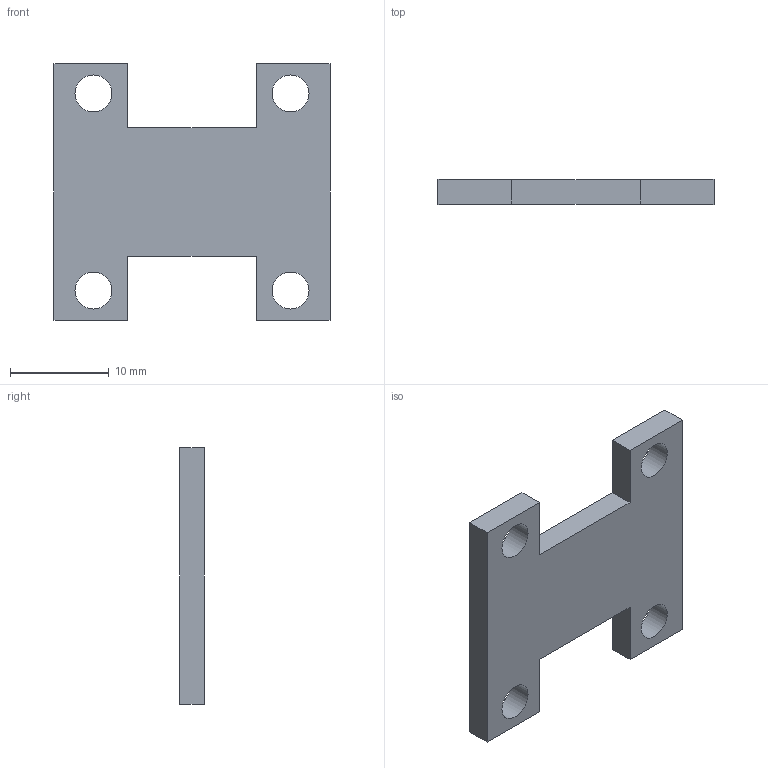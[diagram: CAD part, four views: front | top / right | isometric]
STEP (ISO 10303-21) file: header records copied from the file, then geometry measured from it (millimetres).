
FILE_DESCRIPTION(/* description */ (''),/* implementation_level */ '2;1');
FILE_NAME(/* name */ 'Basket_Plexiglass_V5.stp',/* time_stamp */ '2026-03-25T11:31:58-04:00',/* author */ ('vckot'),/* organization */ (''),/* preprocessor_version */ 'ST-DEVELOPER v20.1',/* originating_system */ 'Autodesk Inventor 2026',/* authorisation */ '');
FILE_SCHEMA (('AUTOMOTIVE_DESIGN { 1 0 10303 214 3 1 1 }'));
Length unit declared in the file: millimetre
Products named in the file (1): PCB_Housing_08_V4
Bounding box: 28 x 2.5 x 26 mm (x, y, z)
Volume: 1287.1 mm3; surface area: 1482.5 mm2
Topology: 1 solids, 1 shells, 18 faces, 48 edges, 32 vertices
Faces by surface type: plane 14, cylinder 4
Full cylindrical faces by diameter (mm): 3.75 x4
Entity records: 619 total; most frequent: CARTESIAN_POINT 99, ORIENTED_EDGE 96, DIRECTION 94, EDGE_CURVE 48, LINE 40, VECTOR 40, VERTEX_POINT 32, AXIS2_PLACEMENT_3D 27
